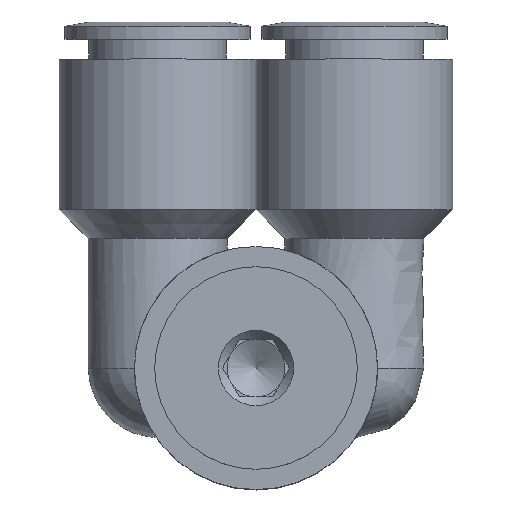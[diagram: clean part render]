
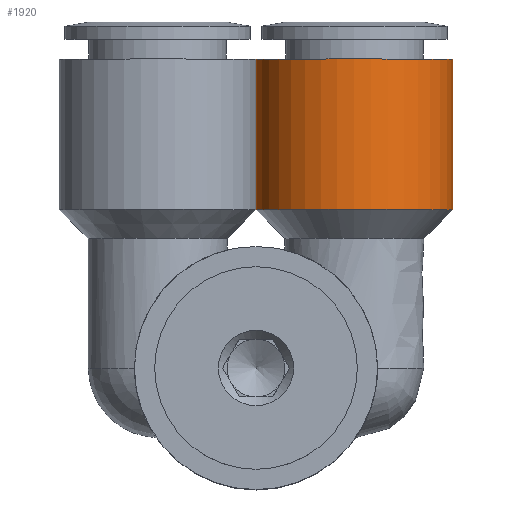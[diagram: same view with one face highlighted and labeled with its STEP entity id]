
A CAD part, top view. The second image highlights one B-rep face of the part: STEP entity #1920.
In plain terms, the highlighted free-form (B-spline) face has degree [1, 2] with [2, 9] control points.
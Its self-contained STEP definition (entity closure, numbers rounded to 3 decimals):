
#1855=CARTESIAN_POINT('',(0.,13.7,0.0));
#1856=VERTEX_POINT('',#1855);
#1857=CARTESIAN_POINT('',(8.5,13.7,0.0));
#1858=DIRECTION('',(0.0,-1.0,0.0));
#1859=DIRECTION('',(1.0,0.0,0.0));
#1860=AXIS2_PLACEMENT_3D('',#1857,#1858,#1859);
#1861=CIRCLE('',#1860,8.5);
#1862=EDGE_CURVE('',#1856,#1856,#1861,.T.);
#1870=CARTESIAN_POINT('',(0.,13.7,0.));
#1871=CARTESIAN_POINT('',(0.,26.7,0.));
#1872=CARTESIAN_POINT('',(0.,13.7,-8.5));
#1873=CARTESIAN_POINT('',(0.,26.7,-8.5));
#1874=CARTESIAN_POINT('',(8.5,13.7,-8.5));
#1875=CARTESIAN_POINT('',(8.5,26.7,-8.5));
#1876=CARTESIAN_POINT('',(17.,13.7,-8.5));
#1877=CARTESIAN_POINT('',(17.,26.7,-8.5));
#1878=CARTESIAN_POINT('',(17.,13.7,0.));
#1879=CARTESIAN_POINT('',(17.,26.7,0.));
#1880=CARTESIAN_POINT('',(17.,13.7,8.5));
#1881=CARTESIAN_POINT('',(17.,26.7,8.5));
#1882=CARTESIAN_POINT('',(8.5,13.7,8.5));
#1883=CARTESIAN_POINT('',(8.5,26.7,8.5));
#1884=CARTESIAN_POINT('',(0.,13.7,8.5));
#1885=CARTESIAN_POINT('',(0.,26.7,8.5));
#1886=CARTESIAN_POINT('',(0.,13.7,0.));
#1887=CARTESIAN_POINT('',(0.,26.7,0.));
#1895=(BOUNDED_SURFACE()B_SPLINE_SURFACE(1,2,((#1870,#1872,#1874,#1876,#1878,#1880,#1882,#1884,#1886),(#1871,#1873,#1875,#1877,#1879,#1881,#1883,#1885,#1887)),.UNSPECIFIED.,.F.,.T.,.U.)B_SPLINE_SURFACE_WITH_KNOTS((2,2),(3,2,2,2,3),(-0.765,0.765),(0.0,13.352,26.704,40.055,53.407),.UNSPECIFIED.)GEOMETRIC_REPRESENTATION_ITEM()RATIONAL_B_SPLINE_SURFACE(((1.0,0.707,1.0,0.707,1.0,0.707,1.0,0.707,1.0),(1.0,0.707,1.0,0.707,1.0,0.707,1.0,0.707,1.0)))REPRESENTATION_ITEM('')SURFACE());
#1896=CARTESIAN_POINT('',(0.0,26.7,0.0));
#1897=VERTEX_POINT('',#1896);
#1898=CARTESIAN_POINT('',(8.5,26.7,0.0));
#1899=DIRECTION('',(0.0,-1.0,0.0));
#1900=DIRECTION('',(1.0,0.0,0.0));
#1901=AXIS2_PLACEMENT_3D('',#1898,#1899,#1900);
#1902=CIRCLE('',#1901,8.5);
#1903=EDGE_CURVE('',#1897,#1897,#1902,.T.);
#1904=ORIENTED_EDGE('',*,*,#1903,.T.);
#1905=CARTESIAN_POINT('',(0.0,26.7,0.0));
#1906=DIRECTION('',(0.0,-1.0,0.0));
#1907=VECTOR('',#1906,13.0);
#1908=LINE('',#1905,#1907);
#1909=EDGE_CURVE('',#1897,#1856,#1908,.T.);
#1910=ORIENTED_EDGE('',*,*,#1909,.T.);
#1911=ORIENTED_EDGE('',*,*,#1862,.F.);
#1912=CARTESIAN_POINT('',(0.0,26.7,0.0));
#1913=DIRECTION('',(0.0,-1.0,0.0));
#1914=VECTOR('',#1913,13.0);
#1915=LINE('',#1912,#1914);
#1916=EDGE_CURVE('',#1897,#1856,#1915,.T.);
#1917=ORIENTED_EDGE('',*,*,#1916,.F.);
#1918=EDGE_LOOP('',(#1904,#1910,#1911,#1917));
#1919=FACE_OUTER_BOUND('',#1918,.T.);
#1920=ADVANCED_FACE('',(#1919),#1895,.T.);
